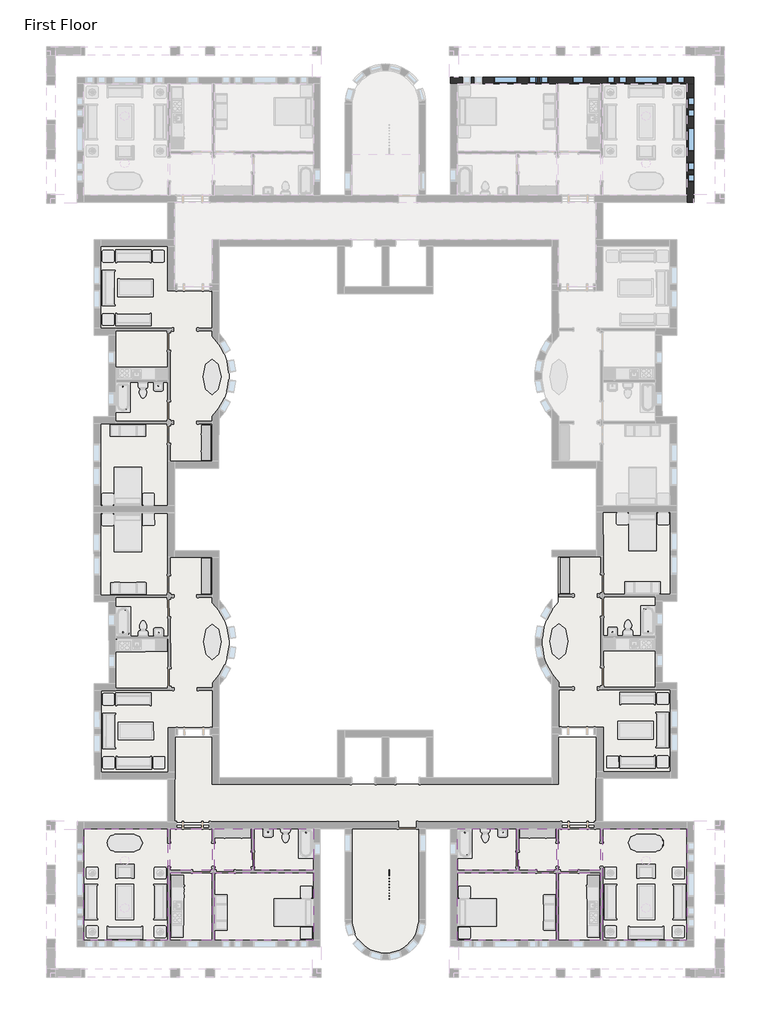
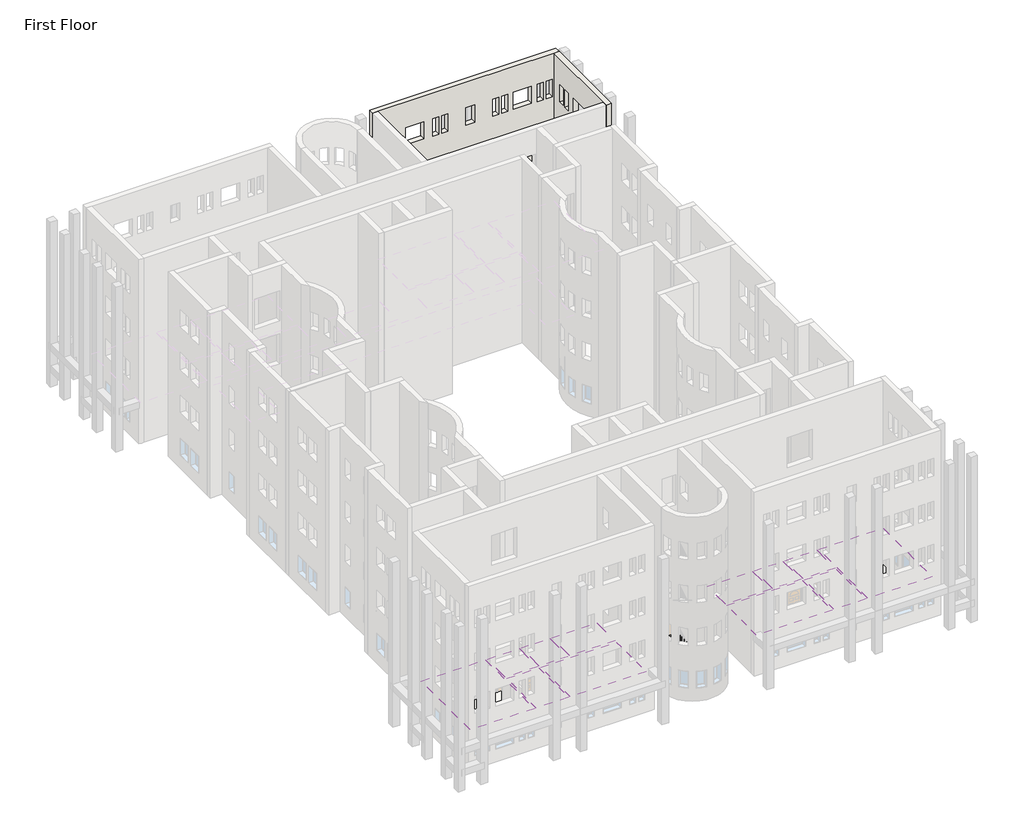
# One storey, part 16 of 21: 14 windows, 12 coverings, 6 slabs, 2 walls.
"""IFC4 building model written with IfcOpenShell, lengths in millimetres."""

from ifc_helpers import new_model, si_unit, point, frame, frame_2d, origin, place, context, project, spatial, polyline, circle_curve, trimmed, segment, composite_curve, outline, extrude, faceted_brep, transform, mapped, element, save
from components import window_da97879f, window_d61ef850, window_60baf983, window_6eb97611

model = new_model("IFC4")

# Units and contexts
model_context = context("Model", 3, world=origin())
ifc_project = project(units=[si_unit("LENGTHUNIT", "METRE", prefix="MILLI")], contexts=[model_context])

# Site, building, storey
site = spatial("IfcSite", under=ifc_project)
building = spatial("IfcBuilding", under=site)
storey = spatial("IfcBuildingStorey", under=building, Name="First Floor", Elevation=0.0)

# Coverings
placement = place(None, origin())
element("IfcCovering", 1, ObjectType="GWB on Mtl. Stud", at=placement, inside=storey, context=model_context, shape_type="SweptSolid", body=[
    extrude(outline(polyline([(-11217.2464563, -33878.3558133), (-11217.2464563, -30395.3808133), (-6122.9589563, -30395.3808133), (-6122.9589563, -33878.3558133), (-11217.2464563, -33878.3558133)])), frame((0.0, 0.0, 2590.8), z_axis=(0.0, 0.0, 1.0), x_axis=(1.0, 0.0, 0.0)), (0.0, 0.0, 1.0), 107.95),
])
element("IfcCovering", 2, ObjectType="GWB on Mtl. Stud", at=placement, inside=storey, context=model_context, shape_type="SweptSolid", body=[
    extrude(outline(polyline([(-5995.9589563, -30395.3808133), (-3836.9589563, -30395.3808133), (-3836.9589563, -33878.3558133), (-5995.9589563, -33878.3558133), (-5995.9589563, -30395.3808133)])), frame((0.0, 0.0, 2590.8), z_axis=(0.0, 0.0, 1.0), x_axis=(1.0, 0.0, 0.0)), (0.0, 0.0, 1.0), 107.95),
])
element("IfcCovering", 3, ObjectType="GWB on Mtl. Stud", at=placement, inside=storey, context=model_context, shape_type="SweptSolid", body=[
    extrude(outline(polyline([(-3709.9589563, -28134.7808133), (622.3285437, -28134.7808133), (622.3285437, -33878.3558133), (-3709.9589563, -33878.3558133), (-3709.9589563, -28134.7808133)])), frame((0.0, 0.0, 2590.8), z_axis=(0.0, 0.0, 1.0), x_axis=(1.0, 0.0, 0.0)), (0.0, 0.0, 1.0), 107.95),
])
element("IfcCovering", 4, ObjectType="GWB on Mtl. Stud", at=placement, inside=storey, context=model_context, shape_type="SweptSolid", body=[
    extrude(outline(polyline([(-3836.9589563, -28134.7808133), (-3836.9589563, -30268.3808133), (-5995.9589563, -30268.3808133), (-5995.9589563, -28134.7808133), (-3836.9589563, -28134.7808133)])), frame((0.0, 0.0, 2590.8), z_axis=(0.0, 0.0, 1.0), x_axis=(1.0, 0.0, 0.0)), (0.0, 0.0, 1.0), 107.95),
])
element("IfcCovering", 5, ObjectType="GWB on Mtl. Stud", at=placement, inside=storey, context=model_context, shape_type="SweptSolid", body=[
    extrude(outline(polyline([(-6122.9589563, -28134.7808133), (-6122.9589563, -30268.3808133), (-8042.2464563, -30268.3808133), (-8042.2464563, -28134.7808133), (-6122.9589563, -28134.7808133)])), frame((0.0, 0.0, 2590.8), z_axis=(0.0, 0.0, 1.0), x_axis=(1.0, 0.0, 0.0)), (0.0, 0.0, 1.0), 107.95),
])
element("IfcCovering", 6, ObjectType="GWB on Mtl. Stud", at=placement, inside=storey, context=model_context, shape_type="SweptSolid", body=[
    extrude(outline(polyline([(-8169.2464563, -30268.3808133), (-11217.2464563, -30268.3808133), (-11217.2464563, -28134.7808133), (-8169.2464563, -28134.7808133), (-8169.2464563, -30268.3808133)])), frame((0.0, 0.0, 2590.8), z_axis=(0.0, 0.0, 1.0), x_axis=(1.0, 0.0, 0.0)), (0.0, 0.0, 1.0), 107.95),
])
element("IfcCovering", 7, ObjectType="GWB on Mtl. Stud", at=placement, inside=storey, context=model_context, shape_type="SweptSolid", body=[
    extrude(outline(polyline([(-18653.0964563, -33878.3558133), (-23747.3839563, -33878.3558133), (-23747.3839563, -30395.3808133), (-18653.0964563, -30395.3808133), (-18653.0964563, -33878.3558133)])), frame((0.0, 0.0, 2590.8), z_axis=(0.0, 0.0, 1.0), x_axis=(1.0, 0.0, 0.0)), (0.0, 0.0, 1.0), 107.95),
])
element("IfcCovering", 8, ObjectType="GWB on Mtl. Stud", at=placement, inside=storey, context=model_context, shape_type="SweptSolid", body=[
    extrude(outline(polyline([(-23874.3839563, -30395.3808133), (-23874.3839563, -33878.3558133), (-26033.3839563, -33878.3558133), (-26033.3839563, -30395.3808133), (-23874.3839563, -30395.3808133)])), frame((0.0, 0.0, 2590.8), z_axis=(0.0, 0.0, 1.0), x_axis=(1.0, 0.0, 0.0)), (0.0, 0.0, 1.0), 107.95),
])
element("IfcCovering", 9, ObjectType="GWB on Mtl. Stud", at=placement, inside=storey, context=model_context, shape_type="SweptSolid", body=[
    extrude(outline(polyline([(-26160.3839563, -28134.7808133), (-26160.3839563, -33878.3558133), (-30492.6714563, -33878.3558133), (-30492.6714563, -28134.7808133), (-26160.3839563, -28134.7808133)])), frame((0.0, 0.0, 2590.8), z_axis=(0.0, 0.0, 1.0), x_axis=(1.0, 0.0, 0.0)), (0.0, 0.0, 1.0), 107.95),
])
element("IfcCovering", 10, ObjectType="GWB on Mtl. Stud", at=placement, inside=storey, context=model_context, shape_type="SweptSolid", body=[
    extrude(outline(polyline([(-26033.3839563, -28134.7808133), (-23874.3839563, -28134.7808133), (-23874.3839563, -30268.3808133), (-26033.3839563, -30268.3808133), (-26033.3839563, -28134.7808133)])), frame((0.0, 0.0, 2590.8), z_axis=(0.0, 0.0, 1.0), x_axis=(1.0, 0.0, 0.0)), (0.0, 0.0, 1.0), 107.95),
])
element("IfcCovering", 11, ObjectType="GWB on Mtl. Stud", at=placement, inside=storey, context=model_context, shape_type="SweptSolid", body=[
    extrude(outline(polyline([(-23747.3839563, -28134.7808133), (-21828.0964563, -28134.7808133), (-21828.0964563, -30268.3808133), (-23747.3839563, -30268.3808133), (-23747.3839563, -28134.7808133)])), frame((0.0, 0.0, 2590.8), z_axis=(0.0, 0.0, 1.0), x_axis=(1.0, 0.0, 0.0)), (0.0, 0.0, 1.0), 107.95),
])
element("IfcCovering", 12, ObjectType="GWB on Mtl. Stud", at=placement, inside=storey, context=model_context, shape_type="SweptSolid", body=[
    extrude(outline(polyline([(-21701.0964563, -30268.3808133), (-21701.0964563, -28134.7808133), (-18653.0964563, -28134.7808133), (-18653.0964563, -30268.3808133), (-21701.0964563, -30268.3808133)])), frame((0.0, 0.0, 2590.8), z_axis=(0.0, 0.0, 1.0), x_axis=(1.0, 0.0, 0.0)), (0.0, 0.0, 1.0), 107.95),
])

# Slabs
element("IfcSlab", 13, ObjectType="LW Concrete on Metal Deck", at=placement, inside=storey, context=model_context, shape_type="SweptSolid", body=[
    extrude(outline(polyline([(787.4285437, -34043.4558133), (-11382.3464563, -34043.4558133), (-11382.3464563, -27969.6808133), (787.4285437, -27969.6808133), (787.4285437, -34043.4558133)])), frame((0.0, 0.0, -104.775), z_axis=(0.0, 0.0, 1.0), x_axis=(1.0, 0.0, 0.0)), (0.0, 0.0, 1.0), 104.775),
])
element("IfcSlab", 14, ObjectType="LW Concrete on Metal Deck", at=placement, inside=storey, context=model_context, shape_type="SweptSolid", body=[
    extrude(outline(composite_curve([segment(trimmed(circle_curve(frame_2d((-14935.1714563, -32835.3683133)), 1741.4875), [point((-13193.6839563, -32835.3683133))], [point((-16676.6589563, -32835.3683133))], False, "CARTESIAN"), True, "CONTINUOUS"), segment(polyline([(-16676.6589563, -32835.3683133), (-16676.6589563, -27795.0558133), (-25807.9589563, -27795.0558133), (-25807.9589563, -23410.3808133), (-23861.6839563, -23410.3808133), (-23861.6839563, -25836.0808133), (-6008.6589563, -25836.0808133), (-6008.6589563, -23410.3808133), (-4062.3839563, -23410.3808133), (-4062.3839563, -27795.0558133), (-13193.6839563, -27795.0558133), (-13193.6839563, -32835.3683133)]), True, "CONTINUOUS")], self_intersect=False)), frame((0.0, 0.0, -104.775), z_axis=(0.0, 0.0, 1.0), x_axis=(1.0, 0.0, 0.0)), (0.0, 0.0, 1.0), 104.775),
])
element("IfcSlab", 15, ObjectType="LW Concrete on Metal Deck", at=placement, inside=storey, context=model_context, shape_type="SweptSolid", body=[
    extrude(outline(polyline([(-30657.7714563, -34043.4558133), (-30657.7714563, -27969.6808133), (-18487.9964563, -27969.6808133), (-18487.9964563, -34043.4558133), (-30657.7714563, -34043.4558133)])), frame((0.0, 0.0, -104.775), z_axis=(0.0, 0.0, 1.0), x_axis=(1.0, 0.0, 0.0)), (0.0, 0.0, 1.0), 104.775),
])
element("IfcSlab", 16, ObjectType="LW Concrete on Metal Deck", at=placement, inside=storey, context=model_context, shape_type="SweptSolid", body=[
    extrude(outline(composite_curve([segment(polyline([(-29636.11937, -7241.4361258), (-28874.1195894, -7242.0143884), (-28870.4018424, -2342.9907991), (-29632.401623, -2342.4125364), (-29629.1802181, 1902.5612413), (-26146.206221, 1899.918099), (-26147.941009, -386.0812427), (-23861.9416673, -387.8160307), (-23863.7329994, -2748.3258491)]), True, "CONTINUOUS"), segment(trimmed(circle_curve(frame_2d((-25878.481463, -4794.7744983)), 2871.7875), [point((-23863.7329994, -2748.3258491))], [point((-23866.841316, -6844.2786734))], False, "CARTESIAN"), True, "CONTINUOUS"), segment(polyline([(-23866.841316, -6844.2786734), (-23868.6326481, -9204.7884919), (-26154.6319898, -9203.0537039), (-26156.3667778, -11489.0530457), (-29639.3407749, -11486.4099034), (-29636.11937, -7241.4361258)]), True, "CONTINUOUS")], self_intersect=False)), frame((0.0, 0.0, -104.775), z_axis=(0.0, 0.0, 1.0), x_axis=(1.0, 0.0, 0.0)), (0.0, 0.0, 1.0), 104.775),
])
element("IfcSlab", 17, ObjectType="LW Concrete on Metal Deck", at=placement, inside=storey, context=model_context, shape_type="SweptSolid", body=[
    extrude(outline(composite_curve([segment(polyline([(-227.5325618, -16058.4085869), (-989.5323424, -16058.9868496), (-985.8145954, -20958.0104389), (-223.8148148, -20957.4321763), (-220.5934099, -25202.405954), (-3703.567407, -25205.0490962), (-3705.302195, -22919.0497544), (-5991.3015367, -22920.7845424), (-5993.0928688, -20560.274724)]), True, "CONTINUOUS"), segment(trimmed(circle_curve(frame_2d((-3981.4527218, -18510.7705488)), 2871.7875), [point((-5993.0928688, -20560.274724))], [point((-5996.2011854, -16464.3218997))], False, "CARTESIAN"), True, "CONTINUOUS"), segment(polyline([(-5996.2011854, -16464.3218997), (-5997.9925176, -14103.8120812), (-3711.9931758, -14102.0772932), (-3713.7279638, -11816.0779515), (-230.7539667, -11813.4348093), (-227.5325618, -16058.4085869)]), True, "CONTINUOUS")], self_intersect=False)), frame((0.0, 0.0, -104.775), z_axis=(0.0, 0.0, 1.0), x_axis=(1.0, 0.0, 0.0)), (0.0, 0.0, 1.0), 104.775),
])
element("IfcSlab", 18, ObjectType="LW Concrete on Metal Deck", at=placement, inside=storey, context=model_context, shape_type="SweptSolid", body=[
    extrude(outline(composite_curve([segment(polyline([(-29629.3945246, -16103.0332943), (-29639.0587318, -11858.0692952), (-26156.092758, -11850.1398746), (-26150.8883981, -14136.1339504), (-23864.8943223, -14130.9295905), (-23859.5203301, -16491.4339713)]), True, "CONTINUOUS"), segment(trimmed(circle_curve(frame_2d((-25868.0475266, -18543.9889514)), 2871.7875), [point((-23859.5203301, -16491.4339713))], [point((-23850.1953874, -20587.3773603))], False, "CARTESIAN"), True, "CONTINUOUS"), segment(polyline([(-23850.1953874, -20587.3773603), (-23844.8213952, -22947.8817412), (-26130.815471, -22953.0861011), (-26125.6111111, -25239.0801769), (-29608.577085, -25247.0095975), (-29618.2412922, -21002.0455984), (-28856.2432669, -21000.3108118), (-28867.3964993, -16101.2985076), (-29629.3945246, -16103.0332943)]), True, "CONTINUOUS")], self_intersect=False)), frame((0.0, 0.0, -104.775), z_axis=(0.0, 0.0, 1.0), x_axis=(1.0, 0.0, 0.0)), (0.0, 0.0, 1.0), 104.775),
])

# Walls
element("IfcWall", 19, ObjectType="Exterior - Brick on Mtl. Stud", at=placement, inside=storey, context=model_context, shape_type="Brep", body=[
    faceted_brep([(-11569.6714563, 10270.0191867, 13106.4), (-11217.2464563, 10270.0191867, 13106.4), (622.3285437, 10270.0191867, 13106.4), (974.7535437, 10270.0191867, 13106.4), (974.7535437, 10622.4441867, 13106.4), (-11569.6714563, 10622.4441867, 13106.4), (-11569.6714563, 10270.0191867, 0.0), (-11382.3464563, 10270.0191867, 0.0), (-11217.2464563, 10270.0191867, 0.0), (-6122.9589563, 10270.0191867, 0.0), (-5995.9589563, 10270.0191867, 0.0), (-3836.9589563, 10270.0191867, 0.0), (-3709.9589563, 10270.0191867, 0.0), (622.3285437, 10270.0191867, 0.0), (787.4285437, 10270.0191867, 0.0), (974.7535437, 10270.0191867, 0.0), (-90.4589563, 10270.0191867, 8229.6), (-90.4589563, 10270.0191867, 7010.4), (-496.8589563, 10270.0191867, 7010.4), (-496.8589563, 10270.0191867, 8229.6), (519.1410437, 10270.0191867, 8229.6), (519.1410437, 10270.0191867, 7010.4), (112.7410437, 10270.0191867, 7010.4), (112.7410437, 10270.0191867, 8229.6), (-2884.4589563, 10270.0191867, 8229.6), (-2478.0589563, 10270.0191867, 8229.6), (-2478.0589563, 10270.0191867, 7010.4), (-2884.4589563, 10270.0191867, 7010.4), (-3494.0589563, 10270.0191867, 8229.6), (-3087.6589563, 10270.0191867, 8229.6), (-3087.6589563, 10270.0191867, 7010.4), (-3494.0589563, 10270.0191867, 7010.4), (-7126.2589563, 10270.0191867, 8229.6), (-7126.2589563, 10270.0191867, 7010.4), (-7532.6589563, 10270.0191867, 7010.4), (-7532.6589563, 10270.0191867, 8229.6), (-6516.6589563, 10270.0191867, 8229.6), (-6516.6589563, 10270.0191867, 7010.4), (-6923.0589563, 10270.0191867, 7010.4), (-6923.0589563, 10270.0191867, 8229.6), (-10326.6589563, 10270.0191867, 8229.6), (-9920.2589563, 10270.0191867, 8229.6), (-9920.2589563, 10270.0191867, 7010.4), (-10326.6589563, 10270.0191867, 7010.4), (-10936.2589563, 10270.0191867, 8229.6), (-10529.8589563, 10270.0191867, 8229.6), (-10529.8589563, 10270.0191867, 7010.4), (-10936.2589563, 10270.0191867, 7010.4), (-2097.0589563, 10270.0191867, 8229.6), (-877.8589563, 10270.0191867, 8229.6), (-877.8589563, 10270.0191867, 7010.4), (-2097.0589563, 10270.0191867, 7010.4), (-9336.0589563, 10270.0191867, 8229.6), (-8116.8589563, 10270.0191867, 8229.6), (-8116.8589563, 10270.0191867, 7010.4), (-9336.0589563, 10270.0191867, 7010.4), (-5297.4589563, 10270.0191867, 8229.6), (-4687.8589563, 10270.0191867, 8229.6), (-4687.8589563, 10270.0191867, 7010.4), (-5297.4589563, 10270.0191867, 7010.4), (-90.4589563, 10270.0191867, 5181.6), (-90.4589563, 10270.0191867, 3962.4), (-496.8589563, 10270.0191867, 3962.4), (-496.8589563, 10270.0191867, 5181.6), (519.1410437, 10270.0191867, 5181.6), (519.1410437, 10270.0191867, 3962.4), (112.7410437, 10270.0191867, 3962.4), (112.7410437, 10270.0191867, 5181.6), (-2884.4589563, 10270.0191867, 5181.6), (-2478.0589563, 10270.0191867, 5181.6), (-2478.0589563, 10270.0191867, 3962.4), (-2884.4589563, 10270.0191867, 3962.4), (-3494.0589563, 10270.0191867, 5181.6), (-3087.6589563, 10270.0191867, 5181.6), (-3087.6589563, 10270.0191867, 3962.4), (-3494.0589563, 10270.0191867, 3962.4), (-7126.2589563, 10270.0191867, 5181.6), (-7126.2589563, 10270.0191867, 3962.4), (-7532.6589563, 10270.0191867, 3962.4), (-7532.6589563, 10270.0191867, 5181.6), (-6516.6589563, 10270.0191867, 5181.6), (-6516.6589563, 10270.0191867, 3962.4), (-6923.0589563, 10270.0191867, 3962.4), (-6923.0589563, 10270.0191867, 5181.6), (-10326.6589563, 10270.0191867, 5181.6), (-9920.2589563, 10270.0191867, 5181.6), (-9920.2589563, 10270.0191867, 3962.4), (-10326.6589563, 10270.0191867, 3962.4), (-10936.2589563, 10270.0191867, 5181.6), (-10529.8589563, 10270.0191867, 5181.6), (-10529.8589563, 10270.0191867, 3962.4), (-10936.2589563, 10270.0191867, 3962.4), (-2097.0589563, 10270.0191867, 5181.6), (-877.8589563, 10270.0191867, 5181.6), (-877.8589563, 10270.0191867, 3962.4), (-2097.0589563, 10270.0191867, 3962.4), (-9336.0589563, 10270.0191867, 5181.6), (-8116.8589563, 10270.0191867, 5181.6), (-8116.8589563, 10270.0191867, 3962.4), (-9336.0589563, 10270.0191867, 3962.4), (-5297.4589563, 10270.0191867, 5181.6), (-4687.8589563, 10270.0191867, 5181.6), (-4687.8589563, 10270.0191867, 3962.4), (-5297.4589563, 10270.0191867, 3962.4), (-90.4589563, 10270.0191867, 11277.6), (-90.4589563, 10270.0191867, 10058.4), (-496.8589563, 10270.0191867, 10058.4), (-496.8589563, 10270.0191867, 11277.6), (519.1410437, 10270.0191867, 11277.6), (519.1410437, 10270.0191867, 10058.4), (112.7410437, 10270.0191867, 10058.4), (112.7410437, 10270.0191867, 11277.6), (-2884.4589563, 10270.0191867, 11277.6), (-2478.0589563, 10270.0191867, 11277.6), (-2478.0589563, 10270.0191867, 10058.4), (-2884.4589563, 10270.0191867, 10058.4), (-3494.0589563, 10270.0191867, 11277.6), (-3087.6589563, 10270.0191867, 11277.6), (-3087.6589563, 10270.0191867, 10058.4), (-3494.0589563, 10270.0191867, 10058.4), (-7126.2589563, 10270.0191867, 11277.6), (-7126.2589563, 10270.0191867, 10058.4), (-7532.6589563, 10270.0191867, 10058.4), (-7532.6589563, 10270.0191867, 11277.6), (-6516.6589563, 10270.0191867, 11277.6), (-6516.6589563, 10270.0191867, 10058.4), (-6923.0589563, 10270.0191867, 10058.4), (-6923.0589563, 10270.0191867, 11277.6), (-10326.6589563, 10270.0191867, 11277.6), (-9920.2589563, 10270.0191867, 11277.6), (-9920.2589563, 10270.0191867, 10058.4), (-10326.6589563, 10270.0191867, 10058.4), (-10936.2589563, 10270.0191867, 11277.6), (-10529.8589563, 10270.0191867, 11277.6), (-10529.8589563, 10270.0191867, 10058.4), (-10936.2589563, 10270.0191867, 10058.4), (-2097.0589563, 10270.0191867, 11277.6), (-877.8589563, 10270.0191867, 11277.6), (-877.8589563, 10270.0191867, 10058.4), (-2097.0589563, 10270.0191867, 10058.4), (-9336.0589563, 10270.0191867, 11277.6), (-8116.8589563, 10270.0191867, 11277.6), (-8116.8589563, 10270.0191867, 10058.4), (-9336.0589563, 10270.0191867, 10058.4), (-5297.4589563, 10270.0191867, 11277.6), (-4687.8589563, 10270.0191867, 11277.6), (-4687.8589563, 10270.0191867, 10058.4), (-5297.4589563, 10270.0191867, 10058.4), (-90.4589563, 10270.0191867, 2133.6), (-90.4589563, 10270.0191867, 914.4), (-496.8589563, 10270.0191867, 914.4), (-496.8589563, 10270.0191867, 2133.6), (519.1410437, 10270.0191867, 2133.6), (519.1410437, 10270.0191867, 914.4), (112.7410437, 10270.0191867, 914.4), (112.7410437, 10270.0191867, 2133.6), (-2884.4589563, 10270.0191867, 2133.6), (-2478.0589563, 10270.0191867, 2133.6), (-2478.0589563, 10270.0191867, 914.4), (-2884.4589563, 10270.0191867, 914.4), (-3494.0589563, 10270.0191867, 2133.6), (-3087.6589563, 10270.0191867, 2133.6), (-3087.6589563, 10270.0191867, 914.4), (-3494.0589563, 10270.0191867, 914.4), (-7126.2589563, 10270.0191867, 2133.6), (-7126.2589563, 10270.0191867, 914.4), (-7532.6589563, 10270.0191867, 914.4), (-7532.6589563, 10270.0191867, 2133.6), (-6516.6589563, 10270.0191867, 2133.6), (-6516.6589563, 10270.0191867, 914.4), (-6923.0589563, 10270.0191867, 914.4), (-6923.0589563, 10270.0191867, 2133.6), (-10326.6589563, 10270.0191867, 2133.6), (-9920.2589563, 10270.0191867, 2133.6), (-9920.2589563, 10270.0191867, 914.4), (-10326.6589563, 10270.0191867, 914.4), (-10936.2589563, 10270.0191867, 2133.6), (-10529.8589563, 10270.0191867, 2133.6), (-10529.8589563, 10270.0191867, 914.4), (-10936.2589563, 10270.0191867, 914.4), (-2097.0589563, 10270.0191867, 2133.6), (-877.8589563, 10270.0191867, 2133.6), (-877.8589563, 10270.0191867, 914.4), (-2097.0589563, 10270.0191867, 914.4), (-9336.0589563, 10270.0191867, 2133.6), (-8116.8589563, 10270.0191867, 2133.6), (-8116.8589563, 10270.0191867, 914.4), (-9336.0589563, 10270.0191867, 914.4), (-5297.4589563, 10270.0191867, 2133.6), (-4687.8589563, 10270.0191867, 2133.6), (-4687.8589563, 10270.0191867, 914.4), (-5297.4589563, 10270.0191867, 914.4), (-11569.6714563, 10622.4441867, 0.0), (974.7535437, 10622.4441867, 0.0), (787.4285437, 10622.4441867, 0.0), (-11382.3464563, 10622.4441867, 0.0), (-90.4589563, 10622.4441867, 8229.6), (-496.8589563, 10622.4441867, 8229.6), (-496.8589563, 10622.4441867, 7010.4), (-90.4589563, 10622.4441867, 7010.4), (519.1410437, 10622.4441867, 8229.6), (112.7410437, 10622.4441867, 8229.6), (112.7410437, 10622.4441867, 7010.4), (519.1410437, 10622.4441867, 7010.4), (-2884.4589563, 10622.4441867, 8229.6), (-2884.4589563, 10622.4441867, 7010.4), (-2478.0589563, 10622.4441867, 7010.4), (-2478.0589563, 10622.4441867, 8229.6), (-3494.0589563, 10622.4441867, 8229.6), (-3494.0589563, 10622.4441867, 7010.4), (-3087.6589563, 10622.4441867, 7010.4), (-3087.6589563, 10622.4441867, 8229.6), (-7126.2589563, 10622.4441867, 8229.6), (-7532.6589563, 10622.4441867, 8229.6), (-7532.6589563, 10622.4441867, 7010.4), (-7126.2589563, 10622.4441867, 7010.4), (-6516.6589563, 10622.4441867, 8229.6), (-6923.0589563, 10622.4441867, 8229.6), (-6923.0589563, 10622.4441867, 7010.4), (-6516.6589563, 10622.4441867, 7010.4), (-10326.6589563, 10622.4441867, 8229.6), (-10326.6589563, 10622.4441867, 7010.4), (-9920.2589563, 10622.4441867, 7010.4), (-9920.2589563, 10622.4441867, 8229.6), (-10936.2589563, 10622.4441867, 8229.6), (-10936.2589563, 10622.4441867, 7010.4), (-10529.8589563, 10622.4441867, 7010.4), (-10529.8589563, 10622.4441867, 8229.6), (-2097.0589563, 10622.4441867, 8229.6), (-2097.0589563, 10622.4441867, 7010.4), (-877.8589563, 10622.4441867, 7010.4), (-877.8589563, 10622.4441867, 8229.6), (-9336.0589563, 10622.4441867, 8229.6), (-9336.0589563, 10622.4441867, 7010.4), (-8116.8589563, 10622.4441867, 7010.4), (-8116.8589563, 10622.4441867, 8229.6), (-5297.4589563, 10622.4441867, 8229.6), (-5297.4589563, 10622.4441867, 7010.4), (-4687.8589563, 10622.4441867, 7010.4), (-4687.8589563, 10622.4441867, 8229.6), (-90.4589563, 10622.4441867, 5181.6), (-496.8589563, 10622.4441867, 5181.6), (-496.8589563, 10622.4441867, 3962.4), (-90.4589563, 10622.4441867, 3962.4), (519.1410437, 10622.4441867, 5181.6), (112.7410437, 10622.4441867, 5181.6), (112.7410437, 10622.4441867, 3962.4), (519.1410437, 10622.4441867, 3962.4), (-2884.4589563, 10622.4441867, 5181.6), (-2884.4589563, 10622.4441867, 3962.4), (-2478.0589563, 10622.4441867, 3962.4), (-2478.0589563, 10622.4441867, 5181.6), (-3494.0589563, 10622.4441867, 5181.6), (-3494.0589563, 10622.4441867, 3962.4), (-3087.6589563, 10622.4441867, 3962.4), (-3087.6589563, 10622.4441867, 5181.6), (-7126.2589563, 10622.4441867, 5181.6), (-7532.6589563, 10622.4441867, 5181.6), (-7532.6589563, 10622.4441867, 3962.4), (-7126.2589563, 10622.4441867, 3962.4), (-6516.6589563, 10622.4441867, 5181.6), (-6923.0589563, 10622.4441867, 5181.6), (-6923.0589563, 10622.4441867, 3962.4), (-6516.6589563, 10622.4441867, 3962.4), (-10326.6589563, 10622.4441867, 5181.6), (-10326.6589563, 10622.4441867, 3962.4), (-9920.2589563, 10622.4441867, 3962.4), (-9920.2589563, 10622.4441867, 5181.6), (-10936.2589563, 10622.4441867, 5181.6), (-10936.2589563, 10622.4441867, 3962.4), (-10529.8589563, 10622.4441867, 3962.4), (-10529.8589563, 10622.4441867, 5181.6), (-2097.0589563, 10622.4441867, 5181.6), (-2097.0589563, 10622.4441867, 3962.4), (-877.8589563, 10622.4441867, 3962.4), (-877.8589563, 10622.4441867, 5181.6), (-9336.0589563, 10622.4441867, 5181.6), (-9336.0589563, 10622.4441867, 3962.4), (-8116.8589563, 10622.4441867, 3962.4), (-8116.8589563, 10622.4441867, 5181.6), (-5297.4589563, 10622.4441867, 5181.6), (-5297.4589563, 10622.4441867, 3962.4), (-4687.8589563, 10622.4441867, 3962.4), (-4687.8589563, 10622.4441867, 5181.6), (-90.4589563, 10622.4441867, 11277.6), (-496.8589563, 10622.4441867, 11277.6), (-496.8589563, 10622.4441867, 10058.4), (-90.4589563, 10622.4441867, 10058.4), (519.1410437, 10622.4441867, 11277.6), (112.7410437, 10622.4441867, 11277.6), (112.7410437, 10622.4441867, 10058.4), (519.1410437, 10622.4441867, 10058.4), (-2884.4589563, 10622.4441867, 11277.6), (-2884.4589563, 10622.4441867, 10058.4), (-2478.0589563, 10622.4441867, 10058.4), (-2478.0589563, 10622.4441867, 11277.6), (-3494.0589563, 10622.4441867, 11277.6), (-3494.0589563, 10622.4441867, 10058.4), (-3087.6589563, 10622.4441867, 10058.4), (-3087.6589563, 10622.4441867, 11277.6), (-7126.2589563, 10622.4441867, 11277.6), (-7532.6589563, 10622.4441867, 11277.6), (-7532.6589563, 10622.4441867, 10058.4), (-7126.2589563, 10622.4441867, 10058.4), (-6516.6589563, 10622.4441867, 11277.6), (-6923.0589563, 10622.4441867, 11277.6), (-6923.0589563, 10622.4441867, 10058.4), (-6516.6589563, 10622.4441867, 10058.4), (-10326.6589563, 10622.4441867, 11277.6), (-10326.6589563, 10622.4441867, 10058.4), (-9920.2589563, 10622.4441867, 10058.4), (-9920.2589563, 10622.4441867, 11277.6), (-10936.2589563, 10622.4441867, 11277.6), (-10936.2589563, 10622.4441867, 10058.4), (-10529.8589563, 10622.4441867, 10058.4), (-10529.8589563, 10622.4441867, 11277.6), (-2097.0589563, 10622.4441867, 11277.6), (-2097.0589563, 10622.4441867, 10058.4), (-877.8589563, 10622.4441867, 10058.4), (-877.8589563, 10622.4441867, 11277.6), (-9336.0589563, 10622.4441867, 11277.6), (-9336.0589563, 10622.4441867, 10058.4), (-8116.8589563, 10622.4441867, 10058.4), (-8116.8589563, 10622.4441867, 11277.6), (-5297.4589563, 10622.4441867, 11277.6), (-5297.4589563, 10622.4441867, 10058.4), (-4687.8589563, 10622.4441867, 10058.4), (-4687.8589563, 10622.4441867, 11277.6), (-90.4589563, 10622.4441867, 2133.6), (-496.8589563, 10622.4441867, 2133.6), (-496.8589563, 10622.4441867, 914.4), (-90.4589563, 10622.4441867, 914.4), (519.1410437, 10622.4441867, 2133.6), (112.7410437, 10622.4441867, 2133.6), (112.7410437, 10622.4441867, 914.4), (519.1410437, 10622.4441867, 914.4), (-2884.4589563, 10622.4441867, 2133.6), (-2884.4589563, 10622.4441867, 914.4), (-2478.0589563, 10622.4441867, 914.4), (-2478.0589563, 10622.4441867, 2133.6), (-3494.0589563, 10622.4441867, 2133.6), (-3494.0589563, 10622.4441867, 914.4), (-3087.6589563, 10622.4441867, 914.4), (-3087.6589563, 10622.4441867, 2133.6), (-7126.2589563, 10622.4441867, 2133.6), (-7532.6589563, 10622.4441867, 2133.6), (-7532.6589563, 10622.4441867, 914.4), (-7126.2589563, 10622.4441867, 914.4), (-6516.6589563, 10622.4441867, 2133.6), (-6923.0589563, 10622.4441867, 2133.6), (-6923.0589563, 10622.4441867, 914.4), (-6516.6589563, 10622.4441867, 914.4), (-10326.6589563, 10622.4441867, 2133.6), (-10326.6589563, 10622.4441867, 914.4), (-9920.2589563, 10622.4441867, 914.4), (-9920.2589563, 10622.4441867, 2133.6), (-10936.2589563, 10622.4441867, 2133.6), (-10936.2589563, 10622.4441867, 914.4), (-10529.8589563, 10622.4441867, 914.4), (-10529.8589563, 10622.4441867, 2133.6), (-2097.0589563, 10622.4441867, 2133.6), (-2097.0589563, 10622.4441867, 914.4), (-877.8589563, 10622.4441867, 914.4), (-877.8589563, 10622.4441867, 2133.6), (-9336.0589563, 10622.4441867, 2133.6), (-9336.0589563, 10622.4441867, 914.4), (-8116.8589563, 10622.4441867, 914.4), (-8116.8589563, 10622.4441867, 2133.6), (-5297.4589563, 10622.4441867, 2133.6), (-5297.4589563, 10622.4441867, 914.4), (-4687.8589563, 10622.4441867, 914.4), (-4687.8589563, 10622.4441867, 2133.6), (974.7535437, 10435.1191867, 0.0), (-11569.6714563, 10435.1191867, 0.0), (-11382.3464563, 10435.1191867, 0.0), (787.4285437, 10435.1191867, 0.0)], [[[0, 1, 2, 3, 4, 5]], [[6, 7, 8, 9, 10, 11, 12, 13, 14, 15, 3, 2, 1, 0], [16, 17, 18, 19], [20, 21, 22, 23], [24, 25, 26, 27], [28, 29, 30, 31], [32, 33, 34, 35], [36, 37, 38, 39], [40, 41, 42, 43], [44, 45, 46, 47], [48, 49, 50, 51], [52, 53, 54, 55], [56, 57, 58, 59], [60, 61, 62, 63], [64, 65, 66, 67], [68, 69, 70, 71], [72, 73, 74, 75], [76, 77, 78, 79], [80, 81, 82, 83], [84, 85, 86, 87], [88, 89, 90, 91], [92, 93, 94, 95], [96, 97, 98, 99], [100, 101, 102, 103], [104, 105, 106, 107], [108, 109, 110, 111], [112, 113, 114, 115], [116, 117, 118, 119], [120, 121, 122, 123], [124, 125, 126, 127], [128, 129, 130, 131], [132, 133, 134, 135], [136, 137, 138, 139], [140, 141, 142, 143], [144, 145, 146, 147], [148, 149, 150, 151], [152, 153, 154, 155], [156, 157, 158, 159], [160, 161, 162, 163], [164, 165, 166, 167], [168, 169, 170, 171], [172, 173, 174, 175], [176, 177, 178, 179], [180, 181, 182, 183], [184, 185, 186, 187], [188, 189, 190, 191]], [[192, 5, 4, 193, 194, 195], [196, 197, 198, 199], [200, 201, 202, 203], [204, 205, 206, 207], [208, 209, 210, 211], [212, 213, 214, 215], [216, 217, 218, 219], [220, 221, 222, 223], [224, 225, 226, 227], [228, 229, 230, 231], [232, 233, 234, 235], [236, 237, 238, 239], [240, 241, 242, 243], [244, 245, 246, 247], [248, 249, 250, 251], [252, 253, 254, 255], [256, 257, 258, 259], [260, 261, 262, 263], [264, 265, 266, 267], [268, 269, 270, 271], [272, 273, 274, 275], [276, 277, 278, 279], [280, 281, 282, 283], [284, 285, 286, 287], [288, 289, 290, 291], [292, 293, 294, 295], [296, 297, 298, 299], [300, 301, 302, 303], [304, 305, 306, 307], [308, 309, 310, 311], [312, 313, 314, 315], [316, 317, 318, 319], [320, 321, 322, 323], [324, 325, 326, 327], [328, 329, 330, 331], [332, 333, 334, 335], [336, 337, 338, 339], [340, 341, 342, 343], [344, 345, 346, 347], [348, 349, 350, 351], [352, 353, 354, 355], [356, 357, 358, 359], [360, 361, 362, 363], [364, 365, 366, 367], [368, 369, 370, 371]], [[3, 15, 372, 193, 4]], [[6, 0, 5, 192, 373]], [[7, 6, 373, 374]], [[373, 192, 195, 374]], [[15, 14, 375, 372]], [[195, 194, 375, 374]], [[194, 193, 372, 375]], [[14, 13, 12, 11, 10, 9, 8, 7, 374, 375]], [[17, 16, 196, 199]], [[18, 17, 199, 198]], [[19, 18, 198, 197]], [[16, 19, 197, 196]], [[21, 20, 200, 203]], [[22, 21, 203, 202]], [[23, 22, 202, 201]], [[20, 23, 201, 200]], [[205, 204, 24, 27]], [[206, 205, 27, 26]], [[207, 206, 26, 25]], [[204, 207, 25, 24]], [[209, 208, 28, 31]], [[210, 209, 31, 30]], [[211, 210, 30, 29]], [[208, 211, 29, 28]], [[33, 32, 212, 215]], [[34, 33, 215, 214]], [[35, 34, 214, 213]], [[32, 35, 213, 212]], [[37, 36, 216, 219]], [[38, 37, 219, 218]], [[39, 38, 218, 217]], [[36, 39, 217, 216]], [[221, 220, 40, 43]], [[222, 221, 43, 42]], [[223, 222, 42, 41]], [[220, 223, 41, 40]], [[225, 224, 44, 47]], [[226, 225, 47, 46]], [[227, 226, 46, 45]], [[224, 227, 45, 44]], [[229, 228, 48, 51]], [[230, 229, 51, 50]], [[231, 230, 50, 49]], [[228, 231, 49, 48]], [[233, 232, 52, 55]], [[234, 233, 55, 54]], [[235, 234, 54, 53]], [[232, 235, 53, 52]], [[237, 236, 56, 59]], [[238, 237, 59, 58]], [[239, 238, 58, 57]], [[236, 239, 57, 56]], [[61, 60, 240, 243]], [[62, 61, 243, 242]], [[63, 62, 242, 241]], [[60, 63, 241, 240]], [[65, 64, 244, 247]], [[66, 65, 247, 246]], [[67, 66, 246, 245]], [[64, 67, 245, 244]], [[249, 248, 68, 71]], [[250, 249, 71, 70]], [[251, 250, 70, 69]], [[248, 251, 69, 68]], [[253, 252, 72, 75]], [[254, 253, 75, 74]], [[255, 254, 74, 73]], [[252, 255, 73, 72]], [[77, 76, 256, 259]], [[78, 77, 259, 258]], [[79, 78, 258, 257]], [[76, 79, 257, 256]], [[81, 80, 260, 263]], [[82, 81, 263, 262]], [[83, 82, 262, 261]], [[80, 83, 261, 260]], [[265, 264, 84, 87]], [[266, 265, 87, 86]], [[267, 266, 86, 85]], [[264, 267, 85, 84]], [[269, 268, 88, 91]], [[270, 269, 91, 90]], [[271, 270, 90, 89]], [[268, 271, 89, 88]], [[273, 272, 92, 95]], [[274, 273, 95, 94]], [[275, 274, 94, 93]], [[272, 275, 93, 92]], [[277, 276, 96, 99]], [[278, 277, 99, 98]], [[279, 278, 98, 97]], [[276, 279, 97, 96]], [[281, 280, 100, 103]], [[282, 281, 103, 102]], [[283, 282, 102, 101]], [[280, 283, 101, 100]], [[105, 104, 284, 287]], [[106, 105, 287, 286]], [[107, 106, 286, 285]], [[104, 107, 285, 284]], [[109, 108, 288, 291]], [[110, 109, 291, 290]], [[111, 110, 290, 289]], [[108, 111, 289, 288]], [[293, 292, 112, 115]], [[294, 293, 115, 114]], [[295, 294, 114, 113]], [[292, 295, 113, 112]], [[297, 296, 116, 119]], [[298, 297, 119, 118]], [[299, 298, 118, 117]], [[296, 299, 117, 116]], [[121, 120, 300, 303]], [[122, 121, 303, 302]], [[123, 122, 302, 301]], [[120, 123, 301, 300]], [[125, 124, 304, 307]], [[126, 125, 307, 306]], [[127, 126, 306, 305]], [[124, 127, 305, 304]], [[309, 308, 128, 131]], [[310, 309, 131, 130]], [[311, 310, 130, 129]], [[308, 311, 129, 128]], [[313, 312, 132, 135]], [[314, 313, 135, 134]], [[315, 314, 134, 133]], [[312, 315, 133, 132]], [[317, 316, 136, 139]], [[318, 317, 139, 138]], [[319, 318, 138, 137]], [[316, 319, 137, 136]], [[321, 320, 140, 143]], [[322, 321, 143, 142]], [[323, 322, 142, 141]], [[320, 323, 141, 140]], [[325, 324, 144, 147]], [[326, 325, 147, 146]], [[327, 326, 146, 145]], [[324, 327, 145, 144]], [[149, 148, 328, 331]], [[150, 149, 331, 330]], [[151, 150, 330, 329]], [[148, 151, 329, 328]], [[153, 152, 332, 335]], [[154, 153, 335, 334]], [[155, 154, 334, 333]], [[152, 155, 333, 332]], [[337, 336, 156, 159]], [[338, 337, 159, 158]], [[339, 338, 158, 157]], [[336, 339, 157, 156]], [[341, 340, 160, 163]], [[342, 341, 163, 162]], [[343, 342, 162, 161]], [[340, 343, 161, 160]], [[165, 164, 344, 347]], [[166, 165, 347, 346]], [[167, 166, 346, 345]], [[164, 167, 345, 344]], [[169, 168, 348, 351]], [[170, 169, 351, 350]], [[171, 170, 350, 349]], [[168, 171, 349, 348]], [[353, 352, 172, 175]], [[354, 353, 175, 174]], [[355, 354, 174, 173]], [[352, 355, 173, 172]], [[357, 356, 176, 179]], [[358, 357, 179, 178]], [[359, 358, 178, 177]], [[356, 359, 177, 176]], [[361, 360, 180, 183]], [[362, 361, 183, 182]], [[363, 362, 182, 181]], [[360, 363, 181, 180]], [[365, 364, 184, 187]], [[366, 365, 187, 186]], [[367, 366, 186, 185]], [[364, 367, 185, 184]], [[369, 368, 188, 191]], [[370, 369, 191, 190]], [[371, 370, 190, 189]], [[368, 371, 189, 188]]]),
])
element("IfcWall", 20, ObjectType="Exterior - Brick on Mtl. Stud", at=placement, inside=storey, context=model_context, shape_type="Brep", body=[
    faceted_brep([(622.3285437, 10270.0191867, 13106.4), (622.3285437, 4526.4441867, 13106.4), (622.3285437, 4174.0191867, 13106.4), (974.7535437, 4174.0191867, 13106.4), (974.7535437, 10270.0191867, 13106.4), (622.3285437, 10270.0191867, 0.0), (622.3285437, 4526.4441867, 0.0), (622.3285437, 4361.3441867, 0.0), (622.3285437, 4174.0191867, 0.0), (622.3285437, 5823.4316867, 8229.6), (622.3285437, 5823.4316867, 7010.4), (622.3285437, 6229.8316867, 7010.4), (622.3285437, 6229.8316867, 8229.6), (622.3285437, 5213.8316867, 8229.6), (622.3285437, 5213.8316867, 7010.4), (622.3285437, 5620.2316867, 7010.4), (622.3285437, 5620.2316867, 8229.6), (622.3285437, 8973.0316867, 8229.6), (622.3285437, 8566.6316867, 8229.6), (622.3285437, 8566.6316867, 7010.4), (622.3285437, 8973.0316867, 7010.4), (622.3285437, 9582.6316867, 8229.6), (622.3285437, 9176.2316867, 8229.6), (622.3285437, 9176.2316867, 7010.4), (622.3285437, 9582.6316867, 7010.4), (622.3285437, 8007.8316867, 8229.6), (622.3285437, 6788.6316867, 8229.6), (622.3285437, 6788.6316867, 7010.4), (622.3285437, 8007.8316867, 7010.4), (622.3285437, 5823.4316867, 5181.6), (622.3285437, 5823.4316867, 3962.4), (622.3285437, 6229.8316867, 3962.4), (622.3285437, 6229.8316867, 5181.6), (622.3285437, 5213.8316867, 5181.6), (622.3285437, 5213.8316867, 3962.4), (622.3285437, 5620.2316867, 3962.4), (622.3285437, 5620.2316867, 5181.6), (622.3285437, 8973.0316867, 5181.6), (622.3285437, 8566.6316867, 5181.6), (622.3285437, 8566.6316867, 3962.4), (622.3285437, 8973.0316867, 3962.4), (622.3285437, 9582.6316867, 5181.6), (622.3285437, 9176.2316867, 5181.6), (622.3285437, 9176.2316867, 3962.4), (622.3285437, 9582.6316867, 3962.4), (622.3285437, 8007.8316867, 5181.6), (622.3285437, 6788.6316867, 5181.6), (622.3285437, 6788.6316867, 3962.4), (622.3285437, 8007.8316867, 3962.4), (622.3285437, 5823.4316867, 11277.6), (622.3285437, 5823.4316867, 10058.4), (622.3285437, 6229.8316867, 10058.4), (622.3285437, 6229.8316867, 11277.6), (622.3285437, 5213.8316867, 11277.6), (622.3285437, 5213.8316867, 10058.4), (622.3285437, 5620.2316867, 10058.4), (622.3285437, 5620.2316867, 11277.6), (622.3285437, 8973.0316867, 11277.6), (622.3285437, 8566.6316867, 11277.6), (622.3285437, 8566.6316867, 10058.4), (622.3285437, 8973.0316867, 10058.4), (622.3285437, 9582.6316867, 11277.6), (622.3285437, 9176.2316867, 11277.6), (622.3285437, 9176.2316867, 10058.4), (622.3285437, 9582.6316867, 10058.4), (622.3285437, 8007.8316867, 11277.6), (622.3285437, 6788.6316867, 11277.6), (622.3285437, 6788.6316867, 10058.4), (622.3285437, 8007.8316867, 10058.4), (622.3285437, 5823.4316867, 2133.6), (622.3285437, 5823.4316867, 914.4), (622.3285437, 6229.8316867, 914.4), (622.3285437, 6229.8316867, 2133.6), (622.3285437, 5213.8316867, 2133.6), (622.3285437, 5213.8316867, 914.4), (622.3285437, 5620.2316867, 914.4), (622.3285437, 5620.2316867, 2133.6), (622.3285437, 8973.0316867, 2133.6), (622.3285437, 8566.6316867, 2133.6), (622.3285437, 8566.6316867, 914.4), (622.3285437, 8973.0316867, 914.4), (622.3285437, 9582.6316867, 2133.6), (622.3285437, 9176.2316867, 2133.6), (622.3285437, 9176.2316867, 914.4), (622.3285437, 9582.6316867, 914.4), (622.3285437, 8007.8316867, 2133.6), (622.3285437, 6788.6316867, 2133.6), (622.3285437, 6788.6316867, 914.4), (622.3285437, 8007.8316867, 914.4), (974.7535437, 10270.0191867, 0.0), (974.7535437, 4174.0191867, 0.0), (974.7535437, 4361.3441867, 0.0), (974.7535437, 5823.4316867, 8229.6), (974.7535437, 6229.8316867, 8229.6), (974.7535437, 6229.8316867, 7010.4), (974.7535437, 5823.4316867, 7010.4), (974.7535437, 5213.8316867, 8229.6), (974.7535437, 5620.2316867, 8229.6), (974.7535437, 5620.2316867, 7010.4), (974.7535437, 5213.8316867, 7010.4), (974.7535437, 8973.0316867, 8229.6), (974.7535437, 8973.0316867, 7010.4), (974.7535437, 8566.6316867, 7010.4), (974.7535437, 8566.6316867, 8229.6), (974.7535437, 9582.6316867, 8229.6), (974.7535437, 9582.6316867, 7010.4), (974.7535437, 9176.2316867, 7010.4), (974.7535437, 9176.2316867, 8229.6), (974.7535437, 8007.8316867, 8229.6), (974.7535437, 8007.8316867, 7010.4), (974.7535437, 6788.6316867, 7010.4), (974.7535437, 6788.6316867, 8229.6), (974.7535437, 5823.4316867, 5181.6), (974.7535437, 6229.8316867, 5181.6), (974.7535437, 6229.8316867, 3962.4), (974.7535437, 5823.4316867, 3962.4), (974.7535437, 5213.8316867, 5181.6), (974.7535437, 5620.2316867, 5181.6), (974.7535437, 5620.2316867, 3962.4), (974.7535437, 5213.8316867, 3962.4), (974.7535437, 8973.0316867, 5181.6), (974.7535437, 8973.0316867, 3962.4), (974.7535437, 8566.6316867, 3962.4), (974.7535437, 8566.6316867, 5181.6), (974.7535437, 9582.6316867, 5181.6), (974.7535437, 9582.6316867, 3962.4), (974.7535437, 9176.2316867, 3962.4), (974.7535437, 9176.2316867, 5181.6), (974.7535437, 8007.8316867, 5181.6), (974.7535437, 8007.8316867, 3962.4), (974.7535437, 6788.6316867, 3962.4), (974.7535437, 6788.6316867, 5181.6), (974.7535437, 5823.4316867, 11277.6), (974.7535437, 6229.8316867, 11277.6), (974.7535437, 6229.8316867, 10058.4), (974.7535437, 5823.4316867, 10058.4), (974.7535437, 5213.8316867, 11277.6), (974.7535437, 5620.2316867, 11277.6), (974.7535437, 5620.2316867, 10058.4), (974.7535437, 5213.8316867, 10058.4), (974.7535437, 8973.0316867, 11277.6), (974.7535437, 8973.0316867, 10058.4), (974.7535437, 8566.6316867, 10058.4), (974.7535437, 8566.6316867, 11277.6), (974.7535437, 9582.6316867, 11277.6), (974.7535437, 9582.6316867, 10058.4), (974.7535437, 9176.2316867, 10058.4), (974.7535437, 9176.2316867, 11277.6), (974.7535437, 8007.8316867, 11277.6), (974.7535437, 8007.8316867, 10058.4), (974.7535437, 6788.6316867, 10058.4), (974.7535437, 6788.6316867, 11277.6), (974.7535437, 5823.4316867, 2133.6), (974.7535437, 6229.8316867, 2133.6), (974.7535437, 6229.8316867, 914.4), (974.7535437, 5823.4316867, 914.4), (974.7535437, 5213.8316867, 2133.6), (974.7535437, 5620.2316867, 2133.6), (974.7535437, 5620.2316867, 914.4), (974.7535437, 5213.8316867, 914.4), (974.7535437, 8973.0316867, 2133.6), (974.7535437, 8973.0316867, 914.4), (974.7535437, 8566.6316867, 914.4), (974.7535437, 8566.6316867, 2133.6), (974.7535437, 9582.6316867, 2133.6), (974.7535437, 9582.6316867, 914.4), (974.7535437, 9176.2316867, 914.4), (974.7535437, 9176.2316867, 2133.6), (974.7535437, 8007.8316867, 2133.6), (974.7535437, 8007.8316867, 914.4), (974.7535437, 6788.6316867, 914.4), (974.7535437, 6788.6316867, 2133.6), (787.4285437, 10270.0191867, 0.0), (787.4285437, 4174.0191867, 0.0), (787.4285437, 4361.3441867, 0.0)], [[[0, 1, 2, 3, 4]], [[5, 6, 7, 8, 2, 1, 0], [9, 10, 11, 12], [13, 14, 15, 16], [17, 18, 19, 20], [21, 22, 23, 24], [25, 26, 27, 28], [29, 30, 31, 32], [33, 34, 35, 36], [37, 38, 39, 40], [41, 42, 43, 44], [45, 46, 47, 48], [49, 50, 51, 52], [53, 54, 55, 56], [57, 58, 59, 60], [61, 62, 63, 64], [65, 66, 67, 68], [69, 70, 71, 72], [73, 74, 75, 76], [77, 78, 79, 80], [81, 82, 83, 84], [85, 86, 87, 88]], [[89, 4, 3, 90, 91], [92, 93, 94, 95], [96, 97, 98, 99], [100, 101, 102, 103], [104, 105, 106, 107], [108, 109, 110, 111], [112, 113, 114, 115], [116, 117, 118, 119], [120, 121, 122, 123], [124, 125, 126, 127], [128, 129, 130, 131], [132, 133, 134, 135], [136, 137, 138, 139], [140, 141, 142, 143], [144, 145, 146, 147], [148, 149, 150, 151], [152, 153, 154, 155], [156, 157, 158, 159], [160, 161, 162, 163], [164, 165, 166, 167], [168, 169, 170, 171]], [[5, 0, 4, 89, 172]], [[2, 8, 173, 90, 3]], [[172, 89, 91, 174]], [[8, 7, 174, 173]], [[174, 91, 90, 173]], [[7, 6, 5, 172, 174]], [[10, 9, 92, 95]], [[11, 10, 95, 94]], [[12, 11, 94, 93]], [[9, 12, 93, 92]], [[14, 13, 96, 99]], [[15, 14, 99, 98]], [[16, 15, 98, 97]], [[13, 16, 97, 96]], [[101, 100, 17, 20]], [[102, 101, 20, 19]], [[103, 102, 19, 18]], [[100, 103, 18, 17]], [[105, 104, 21, 24]], [[106, 105, 24, 23]], [[107, 106, 23, 22]], [[104, 107, 22, 21]], [[109, 108, 25, 28]], [[110, 109, 28, 27]], [[111, 110, 27, 26]], [[108, 111, 26, 25]], [[30, 29, 112, 115]], [[31, 30, 115, 114]], [[32, 31, 114, 113]], [[29, 32, 113, 112]], [[34, 33, 116, 119]], [[35, 34, 119, 118]], [[36, 35, 118, 117]], [[33, 36, 117, 116]], [[121, 120, 37, 40]], [[122, 121, 40, 39]], [[123, 122, 39, 38]], [[120, 123, 38, 37]], [[125, 124, 41, 44]], [[126, 125, 44, 43]], [[127, 126, 43, 42]], [[124, 127, 42, 41]], [[129, 128, 45, 48]], [[130, 129, 48, 47]], [[131, 130, 47, 46]], [[128, 131, 46, 45]], [[50, 49, 132, 135]], [[51, 50, 135, 134]], [[52, 51, 134, 133]], [[49, 52, 133, 132]], [[54, 53, 136, 139]], [[55, 54, 139, 138]], [[56, 55, 138, 137]], [[53, 56, 137, 136]], [[141, 140, 57, 60]], [[142, 141, 60, 59]], [[143, 142, 59, 58]], [[140, 143, 58, 57]], [[145, 144, 61, 64]], [[146, 145, 64, 63]], [[147, 146, 63, 62]], [[144, 147, 62, 61]], [[149, 148, 65, 68]], [[150, 149, 68, 67]], [[151, 150, 67, 66]], [[148, 151, 66, 65]], [[70, 69, 152, 155]], [[71, 70, 155, 154]], [[72, 71, 154, 153]], [[69, 72, 153, 152]], [[74, 73, 156, 159]], [[75, 74, 159, 158]], [[76, 75, 158, 157]], [[73, 76, 157, 156]], [[161, 160, 77, 80]], [[162, 161, 80, 79]], [[163, 162, 79, 78]], [[160, 163, 78, 77]], [[165, 164, 81, 84]], [[166, 165, 84, 83]], [[167, 166, 83, 82]], [[164, 167, 82, 81]], [[169, 168, 85, 88]], [[170, 169, 88, 87]], [[171, 170, 87, 86]], [[168, 171, 86, 85]]]),
])

# Windows
window_shape = window_da97879f(model_context)
element("IfcWindow", 21, ObjectType="Fixed : 16\" x 48\"", at=placement, inside=storey, context=model_context, shape_type="MappedRepresentation", body=[
    mapped(window_shape, transform((-3328.9589563, 10446.2316867, 0.0), x_axis=(-1.0, 0.0, 0.0), y_axis=(0.0, -1.0, 0.0), z_axis=(0.0, 0.0, 1.0))),
])
element("IfcWindow", 22, ObjectType="Fixed : 16\" x 48\"", at=placement, inside=storey, context=model_context, shape_type="MappedRepresentation", body=[
    mapped(window_shape, transform((-2719.3589563, 10446.2316867, 0.0), x_axis=(-1.0, 0.0, 0.0), y_axis=(0.0, -1.0, 0.0), z_axis=(0.0, 0.0, 1.0))),
])
element("IfcWindow", 23, ObjectType="Fixed : 16\" x 48\"", at=placement, inside=storey, context=model_context, shape_type="MappedRepresentation", body=[
    mapped(window_shape, transform((798.5410437, 9417.5316867, 0.0), x_axis=(0.0, 1.0, 0.0), y_axis=(-1.0, 0.0, 0.0), z_axis=(0.0, 0.0, 1.0))),
])
element("IfcWindow", 24, ObjectType="Fixed : 16\" x 48\"", at=placement, inside=storey, context=model_context, shape_type="MappedRepresentation", body=[
    mapped(window_shape, transform((798.5410437, 8807.9316867, 0.0), x_axis=(0.0, 1.0, 0.0), y_axis=(-1.0, 0.0, 0.0), z_axis=(0.0, 0.0, 1.0))),
])
window_2_shape = window_d61ef850(model_context)
element("IfcWindow", 25, ObjectType="Fixed : 16\" x 48\"", at=placement, inside=storey, context=model_context, shape_type="MappedRepresentation", body=[
    mapped(window_2_shape, transform((-6681.7589563, 10446.2316867, 0.0), x_axis=(1.0, 0.0, 0.0), y_axis=(0.0, 1.0, 0.0), z_axis=(0.0, 0.0, 1.0))),
])
element("IfcWindow", 26, ObjectType="Fixed : 16\" x 48\"", at=placement, inside=storey, context=model_context, shape_type="MappedRepresentation", body=[
    mapped(window_2_shape, transform((-7291.3589563, 10446.2316867, 0.0), x_axis=(1.0, 0.0, 0.0), y_axis=(0.0, 1.0, 0.0), z_axis=(0.0, 0.0, 1.0))),
])
element("IfcWindow", 27, ObjectType="Fixed : 16\" x 48\"", at=placement, inside=storey, context=model_context, shape_type="MappedRepresentation", body=[
    mapped(window_2_shape, transform((354.0410437, 10446.2316867, 0.0), x_axis=(1.0, 0.0, 0.0), y_axis=(0.0, 1.0, 0.0), z_axis=(0.0, 0.0, 1.0))),
])
element("IfcWindow", 28, ObjectType="Fixed : 16\" x 48\"", at=placement, inside=storey, context=model_context, shape_type="MappedRepresentation", body=[
    mapped(window_2_shape, transform((-255.5589563, 10446.2316867, 0.0), x_axis=(1.0, 0.0, 0.0), y_axis=(0.0, 1.0, 0.0), z_axis=(0.0, 0.0, 1.0))),
])
element("IfcWindow", 29, ObjectType="Fixed : 16\" x 48\"", at=placement, inside=storey, context=model_context, shape_type="MappedRepresentation", body=[
    mapped(window_2_shape, transform((798.5410437, 5378.9316867, 0.0), x_axis=(0.0, -1.0, 0.0), y_axis=(1.0, 0.0, 0.0), z_axis=(0.0, 0.0, 1.0))),
])
element("IfcWindow", 30, ObjectType="Fixed : 16\" x 48\"", at=placement, inside=storey, context=model_context, shape_type="MappedRepresentation", body=[
    mapped(window_2_shape, transform((798.5410437, 5988.5316867, 0.0), x_axis=(0.0, -1.0, 0.0), y_axis=(1.0, 0.0, 0.0), z_axis=(0.0, 0.0, 1.0))),
])
window_3_shape = window_60baf983(model_context)
element("IfcWindow", 31, ObjectType="Fixed : 24\" x 48\"", at=placement, inside=storey, context=model_context, shape_type="MappedRepresentation", body=[
    mapped(window_3_shape, transform((-5030.7589563, 10446.2316867, 0.0), x_axis=(-1.0, 0.0, 0.0), y_axis=(0.0, -1.0, 0.0), z_axis=(0.0, 0.0, 1.0))),
])
window_4_shape = window_6eb97611(model_context)
element("IfcWindow", 32, ObjectType="Fixed : 48\" x 48\"", at=placement, inside=storey, context=model_context, shape_type="MappedRepresentation", body=[
    mapped(window_4_shape, transform((-8764.5589563, 10446.2316867, 0.0), x_axis=(-1.0, 0.0, 0.0), y_axis=(0.0, -1.0, 0.0), z_axis=(0.0, 0.0, 1.0))),
])
element("IfcWindow", 33, ObjectType="Fixed : 48\" x 48\"", at=placement, inside=storey, context=model_context, shape_type="MappedRepresentation", body=[
    mapped(window_4_shape, transform((-1525.5589563, 10446.2316867, 0.0), x_axis=(-1.0, 0.0, 0.0), y_axis=(0.0, -1.0, 0.0), z_axis=(0.0, 0.0, 1.0))),
])
element("IfcWindow", 34, ObjectType="Fixed : 48\" x 48\"", at=placement, inside=storey, context=model_context, shape_type="MappedRepresentation", body=[
    mapped(window_4_shape, transform((798.5410437, 7436.3316867, 0.0), x_axis=(0.0, 1.0, 0.0), y_axis=(-1.0, 0.0, 0.0), z_axis=(0.0, 0.0, 1.0))),
])

save(model, "model.ifc")
